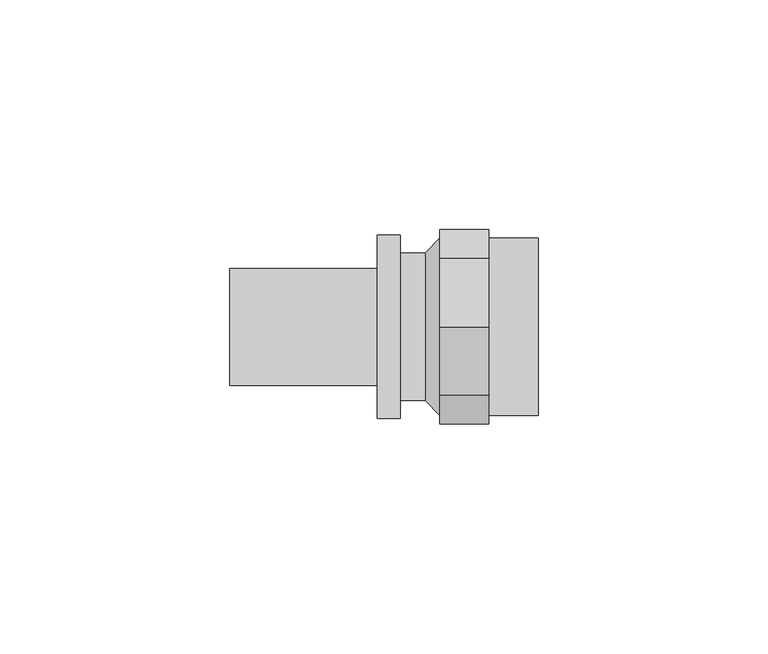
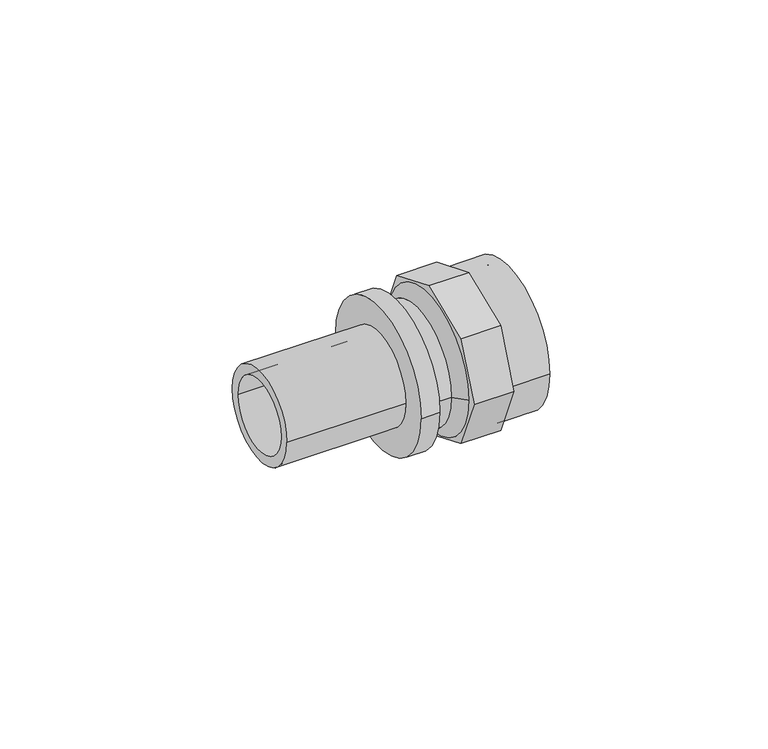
"""IFC4 building model written with IfcOpenShell, lengths in millimetres: pipe fitting geometry, REHAU_RAUTITAN_Adaptor_RX+, with internal thread : REHAU_RAUTITAN_Adaptor_RX+, with internal thread."""

import ifcopenshell
import ifcopenshell.guid

model = None  # the IFC model being written
_history = None  # IfcOwnerHistory: only IFC2X3 demands one
_inside = {}  # id of a spatial element -> (the spatial element, [elements in it])
_under = {}  # id of a project, library or spatial element -> (it, [spatial elements below it])
_declared = {}  # id of a project -> (the project, [libraries it declares])
_typed = {}  # id of a type object -> (the type object, [elements of that type])
_made_of = {}  # id of a material, layer set ... -> (it, [elements and type objects made of it])


def new_model(schema):
    """Start an empty IFC model of exactly this schema.

    Asked for "IFC4X3", IfcOpenShell would pick the latest addendum, in which some entities
    have other attributes; the version numbers below select the first issue.
    IFC2X3 requires an IfcOwnerHistory on every rooted entity: one is made here for all.
    """
    global model, _history
    if schema == "IFC4X3":
        model = ifcopenshell.file(schema_version=(4, 3, 0, 0))
    else:
        model = ifcopenshell.file(schema=schema)
    _inside.clear()
    _under.clear()
    _declared.clear()
    _typed.clear()
    _made_of.clear()
    _history = None
    if model.schema == "IFC2X3":
        org = make("IfcOrganization", Name="unknown")
        user = make(
            "IfcPersonAndOrganization",
            ThePerson=make("IfcPerson", FamilyName="unknown"),
            TheOrganization=org,
        )
        app = make(
            "IfcApplication",
            ApplicationDeveloper=org,
            Version="unknown",
            ApplicationFullName="unknown",
            ApplicationIdentifier="unknown",
        )
        _history = make(
            "IfcOwnerHistory",
            OwningUser=user,
            OwningApplication=app,
            ChangeAction="ADDED",
            CreationDate=0,
        )
    return model


def make(cls, **values):
    """One entity of the class cls with the attributes given. An attribute that is None is left unset."""
    return model.create_entity(
        cls, **{name: value for name, value in values.items() if value is not None}
    )


def rooted(cls, **values):
    """An entity with a GlobalId (a new one), such as an element, a storey or a relation."""
    return make(cls, GlobalId=ifcopenshell.guid.new(), OwnerHistory=_history, **values)


def si_unit(unit_type, name, prefix=None):
    """IfcSIUnit, for example si_unit("LENGTHUNIT", "METRE", prefix="MILLI")."""
    return make("IfcSIUnit", UnitType=unit_type, Prefix=prefix, Name=name)


def assignment(units):
    """IfcUnitAssignment: the units of a project."""
    return None if units is None else make("IfcUnitAssignment", Units=units)


def point(xyz):
    """IfcCartesianPoint."""
    return None if xyz is None else make("IfcCartesianPoint", Coordinates=xyz)


def direction(xyz):
    """IfcDirection."""
    return None if xyz is None else make("IfcDirection", DirectionRatios=xyz)


def frame(location, z_axis=None, x_axis=None):
    """IfcAxis2Placement3D, a coordinate frame: its origin and axes. An axis left out is left unset."""
    return make(
        "IfcAxis2Placement3D",
        Location=point(location),
        Axis=direction(z_axis),
        RefDirection=direction(x_axis),
    )


def frame_2d(location, x_axis=None):
    """IfcAxis2Placement2D, a coordinate frame in the plane: its origin and x axis."""
    return make(
        "IfcAxis2Placement2D", Location=point(location), RefDirection=direction(x_axis)
    )


def origin():
    """The frame at (0, 0, 0) with its axes left unset."""
    return frame((0.0, 0.0, 0.0))


def origin_2d():
    """The frame at (0, 0) in the plane with its x axis left unset."""
    return frame_2d((0.0, 0.0))


def place(relative_to, where):
    """IfcLocalPlacement: puts the frame where relative to a parent placement (None: the world)."""
    return make(
        "IfcLocalPlacement", PlacementRelTo=relative_to, RelativePlacement=where
    )


def context(
    kind, dimensions, precision=None, world=None, true_north=None, identifier=None
):
    """IfcGeometricRepresentationContext, for example the 3D "Model" context."""
    return make(
        "IfcGeometricRepresentationContext",
        ContextIdentifier=identifier,
        ContextType=kind,
        CoordinateSpaceDimension=dimensions,
        Precision=precision,
        WorldCoordinateSystem=world,
        TrueNorth=true_north,
    )


def project(units=None, contexts=None):
    """IfcProject with its units and contexts."""
    return rooted(
        "IfcProject",
        Name="project",
        RepresentationContexts=contexts,
        UnitsInContext=assignment(units),
    )


def spatial(cls, under=None, at=None, **own):
    """A site, building, storey or space (cls), placed at a placement, below another one or the project."""
    s = rooted(cls, ObjectPlacement=at, **own)
    if under is not None:
        _under.setdefault(under.id(), (under, []))[1].append(s)
    return s


def polyline(points):
    """IfcPolyline through the points."""
    return make("IfcPolyline", Points=[point(p) for p in points])


def circle_curve(where, radius):
    """IfcCircle in the frame where."""
    return make("IfcCircle", Position=where, Radius=radius)


def trimmed(basis, trim1, trim2, sense, master):
    """IfcTrimmedCurve: the piece of a basis curve between two trims."""
    return make(
        "IfcTrimmedCurve",
        BasisCurve=basis,
        Trim1=trim1,
        Trim2=trim2,
        SenseAgreement=sense,
        MasterRepresentation=master,
    )


def segment(curve, same_sense, transition):
    """IfcCompositeCurveSegment."""
    return make(
        "IfcCompositeCurveSegment",
        Transition=transition,
        SameSense=same_sense,
        ParentCurve=curve,
    )


def composite_curve(segments, self_intersect=None):
    """IfcCompositeCurve: segments joined end to end."""
    return make("IfcCompositeCurve", Segments=segments, SelfIntersect=self_intersect)


def outline(outer, holes=None, kind="AREA"):
    """IfcArbitraryClosedProfileDef: a profile drawn as a closed curve; with holes, ...WithVoids."""
    if holes is None:
        return make("IfcArbitraryClosedProfileDef", ProfileType=kind, OuterCurve=outer)
    return make(
        "IfcArbitraryProfileDefWithVoids",
        ProfileType=kind,
        OuterCurve=outer,
        InnerCurves=holes,
    )


def extrude(swept, where, along, depth):
    """IfcExtrudedAreaSolid: the profile swept, set in the frame where, extruded along a direction by depth."""
    return make(
        "IfcExtrudedAreaSolid",
        SweptArea=swept,
        Position=where,
        ExtrudedDirection=direction(along),
        Depth=depth,
    )


def shape(context_of_items, identifier, shape_type, items):
    """IfcShapeRepresentation: the items that make up one representation, for example the "Body"."""
    return make(
        "IfcShapeRepresentation",
        ContextOfItems=context_of_items,
        RepresentationIdentifier=identifier,
        RepresentationType=shape_type,
        Items=items,
    )


def source(mapping_origin, context_of_items, identifier, shape_type, items):
    """IfcRepresentationMap: a shape defined once, which mapped items show again and again."""
    return make(
        "IfcRepresentationMap",
        MappingOrigin=mapping_origin,
        MappedRepresentation=shape(context_of_items, identifier, shape_type, items),
    )


def transform(
    local_origin,
    x_axis=None,
    y_axis=None,
    z_axis=None,
    scale=None,
    scale2=None,
    scale3=None,
    uniform=True,
):
    """IfcCartesianTransformationOperator3D, or its non-uniform kind. x_axis, y_axis, z_axis: its Axis1, 2, 3."""
    if uniform:
        return make(
            "IfcCartesianTransformationOperator3D",
            Axis1=direction(x_axis),
            Axis2=direction(y_axis),
            LocalOrigin=point(local_origin),
            Scale=scale,
            Axis3=direction(z_axis),
        )
    return make(
        "IfcCartesianTransformationOperator3DnonUniform",
        Axis1=direction(x_axis),
        Axis2=direction(y_axis),
        LocalOrigin=point(local_origin),
        Scale=scale,
        Axis3=direction(z_axis),
        Scale2=scale2,
        Scale3=scale3,
    )


def mapped(mapping_source, mapping_target):
    """IfcMappedItem: shows the shape of a source again, moved by a transform."""
    return make(
        "IfcMappedItem", MappingSource=mapping_source, MappingTarget=mapping_target
    )


def made_of(thing, what):
    """Note that an element or type object is made of a material, layer set ...; save() writes the relation."""
    if what is not None:
        _made_of.setdefault(what.id(), (what, []))[1].append(thing)
    return thing


def element(
    cls,
    number,
    at=None,
    inside=None,
    cuts=None,
    type_object=None,
    material=None,
    context=None,
    identifier="Body",
    shape_type=None,
    held_by="IfcProductDefinitionShape",
    body=None,
    shapes=None,
    **own,
):
    """One element of the class cls, such as IfcWall. Its Tag is "e" and its number.

    at: its placement. inside: the storey or other place that contains it. cuts: it is an
    opening in that element (IfcRelVoidsElement). A single representation is given by context,
    identifier, shape_type and body (its items); several are given by shapes. held_by: the class
    of the entity that holds the representations. save() writes the other relations.
    """
    e = rooted(cls, Tag="e%d" % number, ObjectPlacement=at, **own)
    if body is not None:
        shapes = [shape(context, identifier, shape_type, body)]
    if shapes is not None:
        e.Representation = make(held_by, Representations=shapes)
    if inside is not None:
        _inside.setdefault(inside.id(), (inside, []))[1].append(e)
    if cuts is not None:
        rooted(
            "IfcRelVoidsElement", RelatingBuildingElement=cuts, RelatedOpeningElement=e
        )
    if type_object is not None:
        _typed.setdefault(type_object.id(), (type_object, []))[1].append(e)
    return made_of(e, material)


def aggregate(whole, parts):
    """IfcRelAggregates: a whole, such as a stair, and the parts it consists of."""
    return rooted("IfcRelAggregates", RelatingObject=whole, RelatedObjects=parts)


def save(model, path):
    """Write the relations noted so far, then the file.

    IfcRelAggregates (storeys below a building ...), IfcRelContainedInSpatialStructure (elements
    in a storey), IfcRelDefinesByType, IfcRelAssociatesMaterial and IfcRelDeclares: one each for
    every whole, place, type object, material and project.
    """
    for whole, parts in _under.values():
        aggregate(whole, parts)
    for where, things in _inside.values():
        rooted(
            "IfcRelContainedInSpatialStructure",
            RelatedElements=things,
            RelatingStructure=where,
        )
    for kind, things in _typed.values():
        rooted("IfcRelDefinesByType", RelatedObjects=things, RelatingType=kind)
    for what, things in _made_of.values():
        rooted("IfcRelAssociatesMaterial", RelatedObjects=things, RelatingMaterial=what)
    for by, libraries in _declared.values():
        rooted("IfcRelDeclares", RelatingContext=by, RelatedDefinitions=libraries)
    model.write(path)


def plane_surface(at):
    """IfcPlane: the flat surface through the origin of the frame at, square to its z axis."""
    return make("IfcPlane", Position=at)


def cylinder_surface(at, radius):
    """IfcCylindricalSurface: all points at the distance radius from the z axis of the frame at."""
    return make("IfcCylindricalSurface", Position=at, Radius=radius)


def revolved_surface(curve, axis_point, axis_direction):
    """IfcSurfaceOfRevolution: the curve turned about the line through axis_point along axis_direction."""
    return make(
        "IfcSurfaceOfRevolution",
        SweptCurve=make("IfcArbitraryOpenProfileDef", ProfileType="CURVE", Curve=curve),
        AxisPosition=make("IfcAxis1Placement", Location=point(axis_point), Axis=direction(axis_direction)),
    )


def advanced_brep(points, edges, surfaces, faces):
    """IfcAdvancedBrep: a solid bounded by faces that lie on surfaces and meet in shared edges.

    An edge is (start, end): straight between two places in points (the first is 0);
    or (start, end, curve); or (start, end, curve, False) where it runs against its curve.
    A face is (place in surfaces, loops), or (place, loops, False) where it looks against
    its surface's normal. A loop lists edges by number (the first is 1), with a minus sign
    where the edge is run from its end to its start. The first loop is the outer one.
    """
    corners = [point(p) for p in points]
    vertices = [make("IfcVertexPoint", VertexGeometry=c) for c in corners]
    made = []
    for start, end, *more in edges:
        made.append(
            make(
                "IfcEdgeCurve",
                EdgeStart=vertices[start],
                EdgeEnd=vertices[end],
                EdgeGeometry=more[0] if more else make("IfcPolyline", Points=[corners[start], corners[end]]),
                SameSense=more[1] if len(more) > 1 else True,
            )
        )
    hull = []
    for where, loops, *sense in faces:
        bounds = []
        for j, loop in enumerate(loops):
            ring = [make("IfcOrientedEdge", EdgeElement=made[abs(k) - 1], Orientation=k > 0) for k in loop]
            bounds.append(
                make(
                    "IfcFaceOuterBound" if j == 0 else "IfcFaceBound",
                    Bound=make("IfcEdgeLoop", EdgeList=ring),
                    Orientation=True,
                )
            )
        hull.append(make("IfcAdvancedFace", Bounds=bounds, FaceSurface=surfaces[where], SameSense=sense[0] if sense else True))
    return make("IfcAdvancedBrep", Outer=make("IfcClosedShell", CfsFaces=hull))


def pipe_fitting_cb2531f9(model_context):
    return source(origin(), model_context, "Body", "SolidModel", [
        extrude(outline(polyline([(-14.9246539, 14.9246539), (0.0, 21.1066479), (14.9246539, 14.9246539), (21.1066479, 0.0), (14.9246539, -14.9246539), (0.0, -21.1066479), (-14.9246539, -14.9246539), (-21.1066479, 0.0), (-14.9246539, 14.9246539)]), holes=[composite_curve([segment(trimmed(circle_curve(origin_2d(), 9.5), [point((-9.5, 0.0))], [point((9.5, 0.0))], True, "CARTESIAN"), True, "CONTINUOUS"), segment(trimmed(circle_curve(origin_2d(), 9.5), [point((9.5, 0.0))], [point((-9.5, 0.0))], True, "CARTESIAN"), True, "CONTINUOUS")], self_intersect=False)]), frame((-5.34, 0.0, 0.0), z_axis=(1.0, 0.0, 0.0), x_axis=(0.0, 1.0, 0.0)), (0.0, 0.0, 1.0), 10.68),
        extrude(outline(composite_curve([segment(trimmed(circle_curve(origin_2d(), 19.25), [point((-19.25, 0.0))], [point((19.25, 0.0))], False, "CARTESIAN"), True, "CONTINUOUS"), segment(trimmed(circle_curve(origin_2d(), 19.25), [point((19.25, 0.0))], [point((-19.25, 0.0))], False, "CARTESIAN"), True, "CONTINUOUS")], self_intersect=False), holes=[composite_curve([segment(trimmed(circle_curve(origin_2d(), 16.56), [point((-16.56, 0.0))], [point((16.56, 0.0))], True, "CARTESIAN"), True, "CONTINUOUS"), segment(trimmed(circle_curve(origin_2d(), 16.56), [point((16.56, 0.0))], [point((-16.56, 0.0))], True, "CARTESIAN"), True, "CONTINUOUS")], self_intersect=False)]), frame((5.34, 0.0, 0.0), z_axis=(1.0, 0.0, 0.0), x_axis=(0.0, 1.0, 0.0)), (0.0, 0.0, 1.0), 10.72),
        advanced_brep(
        [(-8.52, 16.0, 0.0), (-8.52, -16.0, 0.0), (-13.94, -16.0, 0.0), (-13.94, 16.0, 0.0), (-5.34, 19.25, 0.0), (-5.34, -19.25, 0.0), (-8.52, 12.65, 0.0), (-8.52, -12.65, 0.0), (-5.34, -16.56, 0.0), (-5.34, 16.56, 0.0), (-50.94, 10.0, 0.0), (-50.94, -10.0, 0.0), (-13.94, -10.0, 0.0), (-13.94, 10.0, 0.0), (-18.94, 12.725, 0.0), (-18.94, -12.725, 0.0), (-50.94, -12.725, 0.0), (-50.94, 12.725, 0.0), (-13.94, 20.0, 0.0), (-13.94, -20.0, 0.0), (-18.94, -20.0, 0.0), (-18.94, 20.0, 0.0)],
        [
            (0, 1, circle_curve(frame((-8.52, 0.0, 0.0), z_axis=(-1.0, 0.0, 0.0), x_axis=(0.0, -1.0, 0.0)), 16.0)),
            (1, 2),
            (2, 3, circle_curve(frame((-13.94, 0.0, 0.0), z_axis=(1.0, 0.0, 0.0), x_axis=(0.0, -1.0, 0.0)), 16.0)),
            (3, 0),
            (4, 5, circle_curve(frame((-5.34, 0.0, 0.0), z_axis=(-1.0, 0.0, 0.0), x_axis=(0.0, -1.0, 0.0)), 19.25)),
            (5, 1),
            (0, 4),
            (6, 7, circle_curve(frame((-8.52, 0.0, 0.0), z_axis=(-1.0, 0.0, 0.0), x_axis=(0.0, -1.0, 0.0)), 12.65)),
            (7, 8),
            (8, 9, circle_curve(frame((-5.34, 0.0, 0.0), z_axis=(1.0, 0.0, 0.0), x_axis=(0.0, -1.0, 0.0)), 16.56)),
            (9, 6),
            (10, 11, circle_curve(frame((-50.94, 0.0, 0.0), z_axis=(-1.0, 0.0, 0.0), x_axis=(0.0, -1.0, 0.0)), 10.0)),
            (11, 12),
            (12, 13, circle_curve(frame((-13.94, 0.0, 0.0), z_axis=(1.0, 0.0, 0.0), x_axis=(0.0, -1.0, 0.0)), 10.0)),
            (13, 10),
            (14, 15, circle_curve(frame((-18.94, 0.0, 0.0), z_axis=(-1.0, 0.0, 0.0), x_axis=(0.0, -1.0, 0.0)), 12.725)),
            (15, 16),
            (16, 17, circle_curve(frame((-50.94, 0.0, 0.0), z_axis=(1.0, 0.0, 0.0), x_axis=(0.0, -1.0, 0.0)), 12.725)),
            (17, 14),
            (18, 19, circle_curve(frame((-13.94, 0.0, 0.0), z_axis=(-1.0, 0.0, 0.0), x_axis=(0.0, -1.0, 0.0)), 20.0)),
            (19, 20),
            (20, 21, circle_curve(frame((-18.94, 0.0, 0.0), z_axis=(1.0, 0.0, 0.0), x_axis=(0.0, -1.0, 0.0)), 20.0)),
            (21, 18),
            (18, 19, circle_curve(frame((-13.94, 0.0, 0.0), z_axis=(1.0, 0.0, 0.0), x_axis=(0.0, 1.0, 0.0)), 20.0)),
            (2, 3, circle_curve(frame((-13.94, 0.0, 0.0), z_axis=(-1.0, 0.0, 0.0), x_axis=(0.0, 1.0, 0.0)), 16.0)),
            (1, 0, circle_curve(frame((-8.52, 0.0, 0.0), z_axis=(-1.0, 0.0, 0.0), x_axis=(0.0, 1.0, 0.0)), 16.0)),
            (5, 4, circle_curve(frame((-5.34, 0.0, 0.0), z_axis=(-1.0, 0.0, 0.0), x_axis=(0.0, 1.0, 0.0)), 19.25)),
            (7, 6, circle_curve(frame((-8.52, 0.0, 0.0), z_axis=(-1.0, 0.0, 0.0), x_axis=(0.0, 1.0, 0.0)), 12.65)),
            (9, 8, circle_curve(frame((-5.34, 0.0, 0.0), z_axis=(1.0, 0.0, 0.0), x_axis=(0.0, 1.0, 0.0)), 16.56)),
            (11, 10, circle_curve(frame((-50.94, 0.0, 0.0), z_axis=(-1.0, 0.0, 0.0), x_axis=(0.0, 1.0, 0.0)), 10.0)),
            (13, 12, circle_curve(frame((-13.94, 0.0, 0.0), z_axis=(1.0, 0.0, 0.0), x_axis=(0.0, 1.0, 0.0)), 10.0)),
            (16, 17, circle_curve(frame((-50.94, 0.0, 0.0), z_axis=(-1.0, 0.0, 0.0), x_axis=(0.0, 1.0, 0.0)), 12.725)),
            (15, 14, circle_curve(frame((-18.94, 0.0, 0.0), z_axis=(-1.0, 0.0, 0.0), x_axis=(0.0, 1.0, 0.0)), 12.725)),
            (20, 21, circle_curve(frame((-18.94, 0.0, 0.0), z_axis=(-1.0, 0.0, 0.0), x_axis=(0.0, 1.0, 0.0)), 20.0)),
            (12, 7),
            (6, 13),
        ],
        [
            cylinder_surface(frame((0.0, 0.0, 0.0), z_axis=(1.0, 0.0, 0.0), x_axis=(0.0, -1.0, 0.0)), 16.0),
            revolved_surface(polyline([(-8.52, -16.0, 0.0), (-5.34, -19.25, 0.0)]), (0.0, 0.0, 0.0), (1.0, 0.0, 0.0)),
            revolved_surface(polyline([(-5.34, -16.56, 0.0), (-8.52, -12.65, 0.0)]), (0.0, 0.0, 0.0), (1.0, 0.0, 0.0)),
            revolved_surface(polyline([(-13.94, -10.0, 0.0), (-50.94, -10.0, 0.0)]), (0.0, 0.0, 0.0), (1.0, 0.0, 0.0)),
            cylinder_surface(frame((0.0, 0.0, 0.0), z_axis=(1.0, 0.0, 0.0), x_axis=(0.0, -1.0, 0.0)), 12.725),
            cylinder_surface(frame((0.0, 0.0, 0.0), z_axis=(1.0, 0.0, 0.0), x_axis=(0.0, -1.0, 0.0)), 20.0),
            plane_surface(frame((-13.94, 0.0, 0.0), z_axis=(1.0, 0.0, 0.0), x_axis=(0.0, 1.0, 0.0))),
            cylinder_surface(frame((0.0, 0.0, 0.0), z_axis=(1.0, 0.0, 0.0), x_axis=(0.0, 1.0, 0.0)), 16.0),
            revolved_surface(polyline([(-8.52, 16.0, 0.0), (-5.34, 19.25, 0.0)]), (0.0, 0.0, 0.0), (1.0, 0.0, 0.0)),
            revolved_surface(polyline([(-5.34, 16.56, 0.0), (-8.52, 12.65, 0.0)]), (0.0, 0.0, 0.0), (1.0, 0.0, 0.0)),
            revolved_surface(polyline([(-13.94, 10.0, 0.0), (-50.94, 10.0, 0.0)]), (0.0, 0.0, 0.0), (1.0, 0.0, 0.0)),
            plane_surface(frame((-50.94, 0.0, 0.0), z_axis=(-1.0, 0.0, 0.0), x_axis=(0.0, 1.0, 0.0))),
            cylinder_surface(frame((0.0, 0.0, 0.0), z_axis=(1.0, 0.0, 0.0), x_axis=(0.0, 1.0, 0.0)), 12.725),
            plane_surface(frame((-18.94, 0.0, 0.0), z_axis=(-1.0, 0.0, 0.0), x_axis=(0.0, 1.0, 0.0))),
            cylinder_surface(frame((0.0, 0.0, 0.0), z_axis=(1.0, 0.0, 0.0), x_axis=(0.0, 1.0, 0.0)), 20.0),
            revolved_surface(polyline([(-8.52, -12.65, 0.0), (-13.94, -10.0, 0.0)]), (0.0, 0.0, 0.0), (1.0, 0.0, 0.0)),
            revolved_surface(polyline([(-8.52, 12.65, 0.0), (-13.94, 10.0, 0.0)]), (0.0, 0.0, 0.0), (1.0, 0.0, 0.0)),
            plane_surface(frame((-5.34, 0.0, 0.0), z_axis=(1.0, 0.0, 0.0), x_axis=(0.0, 1.0, 0.0))),
        ],
        [
            (0, [[1, 2, 3, 4]]),
            (1, [[5, 6, -1, 7]]),
            (2, [[8, 9, 10, 11]]),
            (3, [[12, 13, 14, 15]]),
            (4, [[16, 17, 18, 19]]),
            (5, [[20, 21, 22, 23]]),
            (6, [[24, -20], [25, -3]]),
            (7, [[26, -4, -25, -2]]),
            (8, [[27, -7, -26, -6]]),
            (9, [[28, -11, 29, -9]]),
            (10, [[30, -15, 31, -13]]),
            (11, [[32, -18], [-30, -12]]),
            (12, [[33, -19, -32, -17]]),
            (13, [[34, -22], [-33, -16]]),
            (14, [[-24, -23, -34, -21]]),
            (15, [[-14, 35, -8, 36]]),
            (16, [[-31, -36, -28, -35]]),
            (17, [[-27, -5], [-29, -10]]),
        ],
    ),
    ])


if __name__ == "__main__":
    model = new_model("IFC4")
    model_context = context("Model", 3, world=origin())
    ifc_project = project(units=[si_unit("LENGTHUNIT", "METRE", prefix="MILLI")], contexts=[model_context])
    site = spatial("IfcSite", under=ifc_project)
    building = spatial("IfcBuilding", under=site)
    placement = place(None, origin())
    pipe_fitting_shape = pipe_fitting_cb2531f9(model_context)
    element("IfcPipeFitting", 1, ObjectType="REHAU_RAUTITAN_Adaptor_RX+, with internal thread : REHAU_RAUTITAN_Adaptor_RX+, with internal thread", at=placement, inside=building, context=model_context, shape_type="MappedRepresentation", body=[
        mapped(pipe_fitting_shape, transform((0.0, 0.0, 0.0), x_axis=(1.0, 0.0, 0.0), y_axis=(0.0, 1.0, 0.0), z_axis=(0.0, 0.0, 1.0))),
    ])
    save(model, "model.ifc")
